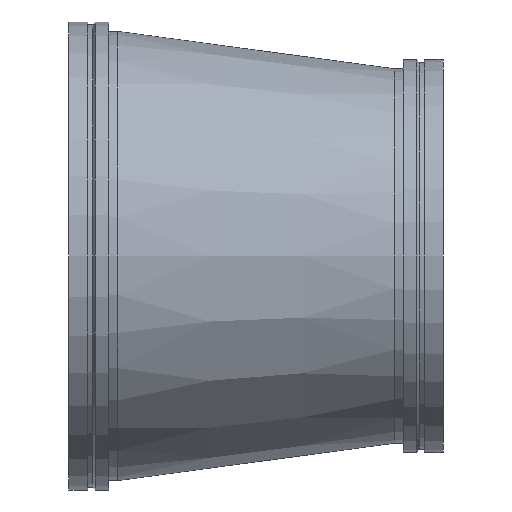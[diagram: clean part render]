
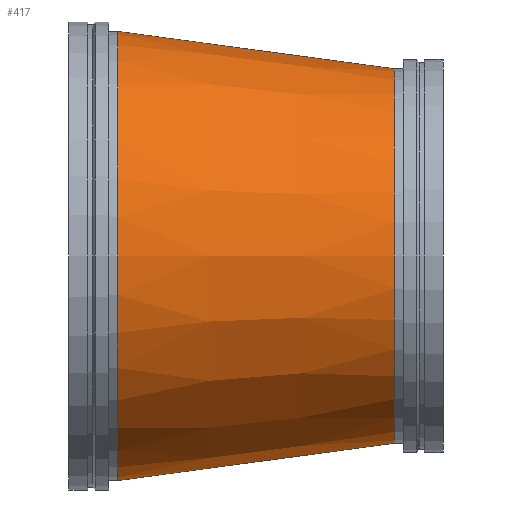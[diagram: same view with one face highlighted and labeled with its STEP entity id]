
A CAD part, front view. The second image highlights one B-rep face of the part: STEP entity #417.
In plain terms, the highlighted conical face has half-angle 7.722 degrees and reference radius 558.8 mm.
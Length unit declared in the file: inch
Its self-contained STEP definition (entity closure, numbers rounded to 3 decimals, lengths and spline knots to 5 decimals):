
#46=CONICAL_SURFACE('',#475,22.,0.135);
#54=LINE('',#739,#68);
#68=VECTOR('',#587,22.);
#101=FACE_OUTER_BOUND('',#124,.T.);
#124=EDGE_LOOP('',(#315,#316,#317,#318,#319,#320));
#155=CIRCLE('',#473,24.);
#156=CIRCLE('',#474,24.);
#157=CIRCLE('',#476,20.);
#158=CIRCLE('',#477,20.);
#195=VERTEX_POINT('',#729);
#196=VERTEX_POINT('',#730);
#197=VERTEX_POINT('',#735);
#198=VERTEX_POINT('',#736);
#239=EDGE_CURVE('',#195,#196,#155,.T.);
#240=EDGE_CURVE('',#196,#195,#156,.T.);
#242=EDGE_CURVE('',#197,#198,#157,.T.);
#243=EDGE_CURVE('',#198,#197,#158,.T.);
#244=EDGE_CURVE('',#198,#196,#54,.T.);
#315=ORIENTED_EDGE('',*,*,#242,.F.);
#316=ORIENTED_EDGE('',*,*,#243,.F.);
#317=ORIENTED_EDGE('',*,*,#244,.T.);
#318=ORIENTED_EDGE('',*,*,#240,.T.);
#319=ORIENTED_EDGE('',*,*,#239,.T.);
#320=ORIENTED_EDGE('',*,*,#244,.F.);
#417=ADVANCED_FACE('',(#101),#46,.T.);
#473=AXIS2_PLACEMENT_3D('',#731,#576,#577);
#474=AXIS2_PLACEMENT_3D('',#732,#578,#579);
#475=AXIS2_PLACEMENT_3D('',#734,#581,#582);
#476=AXIS2_PLACEMENT_3D('',#737,#583,#584);
#477=AXIS2_PLACEMENT_3D('',#738,#585,#586);
#576=DIRECTION('center_axis',(1.,0.,0.));
#577=DIRECTION('ref_axis',(0.,0.,-1.));
#578=DIRECTION('center_axis',(1.,0.,0.));
#579=DIRECTION('ref_axis',(0.,0.,-1.));
#581=DIRECTION('center_axis',(-1.,0.,0.));
#582=DIRECTION('ref_axis',(0.,1.,0.));
#583=DIRECTION('center_axis',(1.,0.,0.));
#584=DIRECTION('ref_axis',(0.,0.,-1.));
#585=DIRECTION('center_axis',(1.,0.,0.));
#586=DIRECTION('ref_axis',(0.,0.,-1.));
#587=DIRECTION('',(-0.991,-0.134,0.));
#729=CARTESIAN_POINT('',(5.25,24.,0.));
#730=CARTESIAN_POINT('',(5.25,-24.,0.));
#731=CARTESIAN_POINT('Origin',(5.25,0.,0.));
#732=CARTESIAN_POINT('Origin',(5.25,0.,0.));
#734=CARTESIAN_POINT('Origin',(20.,0.,0.));
#735=CARTESIAN_POINT('',(34.75,20.,0.));
#736=CARTESIAN_POINT('',(34.75,-20.,0.));
#737=CARTESIAN_POINT('Origin',(34.75,0.,0.));
#738=CARTESIAN_POINT('Origin',(34.75,0.,0.));
#739=CARTESIAN_POINT('',(20.,-22.,0.));
